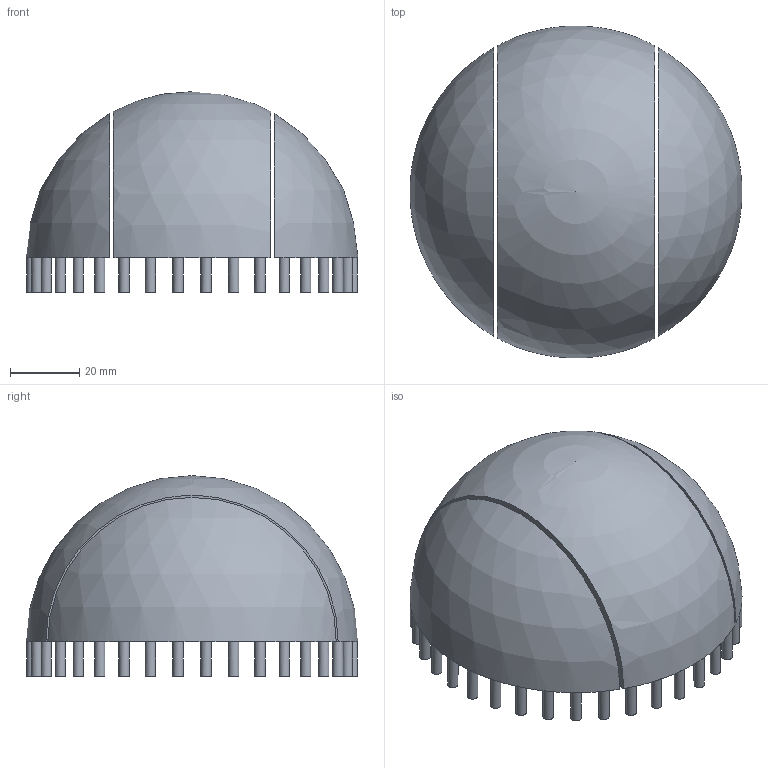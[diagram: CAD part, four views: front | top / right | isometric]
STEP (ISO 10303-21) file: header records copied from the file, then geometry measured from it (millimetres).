
FILE_DESCRIPTION(('Open CASCADE Model'),'2;1');
FILE_NAME('Open CASCADE Shape Model','2026-11-20T06:36:55',('Author'),( 'Open CASCADE'),'Open CASCADE STEP processor 7.8','Open CASCADE 7.8' ,'Unknown');
FILE_SCHEMA(('AUTOMOTIVE_DESIGN { 1 0 10303 214 1 1 1 1 }'));
Length unit declared in the file: millimetre
Products named in the file (4): B00_baseline_water; Water_Xminus; Water_Center; Water_Xplus
Assembly tree (3 placements, depth 2):
  B00_baseline_water
    Water_Xminus
    Water_Center
    Water_Xplus
Bounding box: 95.76 x 95.76 x 57.9 mm (x, y, z)
Volume: 42266.5 mm3; surface area: 32503 mm2
Topology: 3 solids, 3 shells, 122 faces, 282 edges, 164 vertices
Faces by surface type: plane 80, cylinder 36, sphere 6
Full cylindrical faces by diameter (mm): 3 x36
Entity records: 8563 total; most frequent: CARTESIAN_POINT 3224, DIRECTION 1069, ORIENTED_EDGE 560, PCURVE 560, DEFINITIONAL_REPRESENTATION 560, AXIS2_PLACEMENT_3D 362, LINE 340, VECTOR 340
